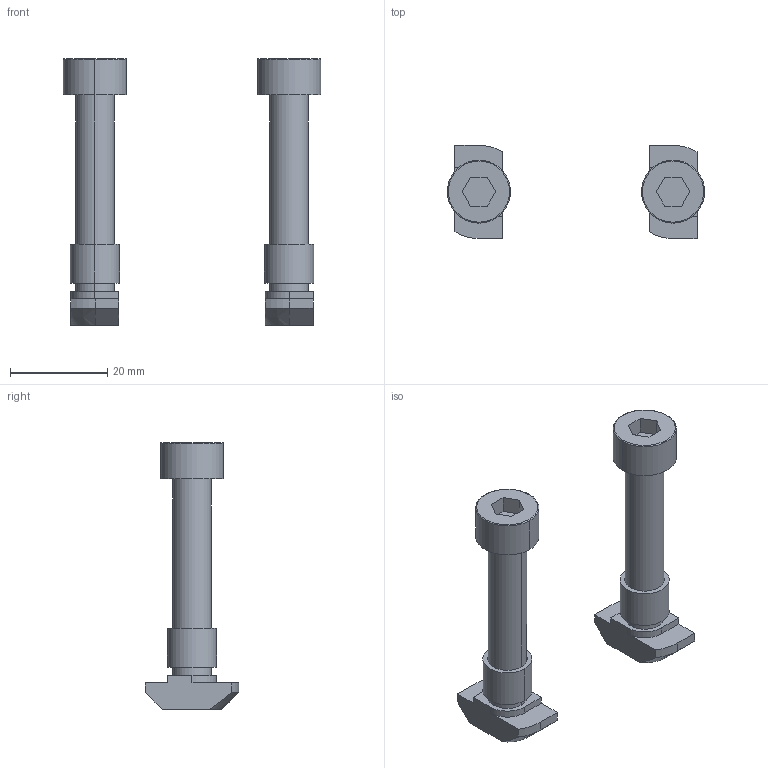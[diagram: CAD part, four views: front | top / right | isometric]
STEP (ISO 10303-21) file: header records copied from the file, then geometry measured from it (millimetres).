
FILE_DESCRIPTION (( 'STEP AP203' ), '1' );
FILE_NAME ('75000003_ASV.STEP', '2017-02-10T23:11:18', ( '' ), ( '' ), 'SwSTEP 2.0', 'SolidWorks 2015', '' );
FILE_SCHEMA (( 'CONFIG_CONTROL_DESIGN' ));
Length unit declared in the file: millimetre
Products named in the file (1): 75000003_ASV
Bounding box: 53 x 19.2 x 55 mm (x, y, z)
Volume: 8090.4 mm3; surface area: 5601.8 mm2
Topology: 2 solids, 2 shells, 88 faces, 216 edges, 142 vertices
Faces by surface type: plane 48, cylinder 32, torus 4, cone 4
Entity records: 2945 total; most frequent: CARTESIAN_POINT 739, DIRECTION 448, ORIENTED_EDGE 432, EDGE_CURVE 216, AXIS2_PLACEMENT_3D 159, VERTEX_POINT 142, LINE 130, VECTOR 130
